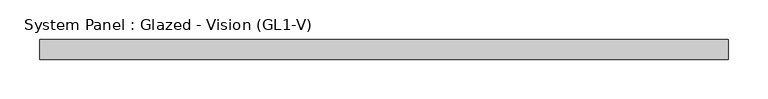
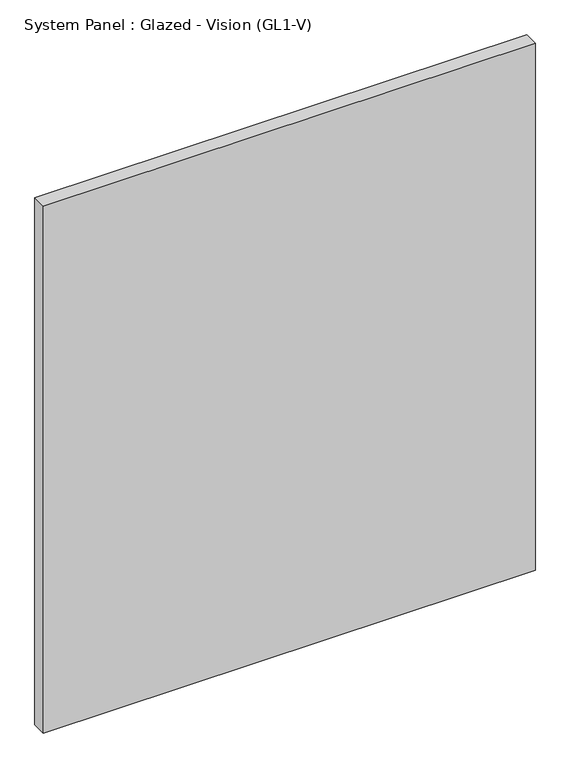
"""IFC4 building model written with IfcOpenShell, lengths in millimetres: plate geometry, System Panel : Glazed - Vision (GL1-V)."""

import ifcopenshell
import ifcopenshell.guid

model = None  # the IFC model being written
_history = None  # IfcOwnerHistory: only IFC2X3 demands one
_inside = {}  # id of a spatial element -> (the spatial element, [elements in it])
_under = {}  # id of a project, library or spatial element -> (it, [spatial elements below it])
_declared = {}  # id of a project -> (the project, [libraries it declares])
_typed = {}  # id of a type object -> (the type object, [elements of that type])
_made_of = {}  # id of a material, layer set ... -> (it, [elements and type objects made of it])


def new_model(schema):
    """Start an empty IFC model of exactly this schema.

    Asked for "IFC4X3", IfcOpenShell would pick the latest addendum, in which some entities
    have other attributes; the version numbers below select the first issue.
    IFC2X3 requires an IfcOwnerHistory on every rooted entity: one is made here for all.
    """
    global model, _history
    if schema == "IFC4X3":
        model = ifcopenshell.file(schema_version=(4, 3, 0, 0))
    else:
        model = ifcopenshell.file(schema=schema)
    _inside.clear()
    _under.clear()
    _declared.clear()
    _typed.clear()
    _made_of.clear()
    _history = None
    if model.schema == "IFC2X3":
        org = make("IfcOrganization", Name="unknown")
        user = make(
            "IfcPersonAndOrganization",
            ThePerson=make("IfcPerson", FamilyName="unknown"),
            TheOrganization=org,
        )
        app = make(
            "IfcApplication",
            ApplicationDeveloper=org,
            Version="unknown",
            ApplicationFullName="unknown",
            ApplicationIdentifier="unknown",
        )
        _history = make(
            "IfcOwnerHistory",
            OwningUser=user,
            OwningApplication=app,
            ChangeAction="ADDED",
            CreationDate=0,
        )
    return model


def make(cls, **values):
    """One entity of the class cls with the attributes given. An attribute that is None is left unset."""
    return model.create_entity(
        cls, **{name: value for name, value in values.items() if value is not None}
    )


def rooted(cls, **values):
    """An entity with a GlobalId (a new one), such as an element, a storey or a relation."""
    return make(cls, GlobalId=ifcopenshell.guid.new(), OwnerHistory=_history, **values)


def si_unit(unit_type, name, prefix=None):
    """IfcSIUnit, for example si_unit("LENGTHUNIT", "METRE", prefix="MILLI")."""
    return make("IfcSIUnit", UnitType=unit_type, Prefix=prefix, Name=name)


def assignment(units):
    """IfcUnitAssignment: the units of a project."""
    return None if units is None else make("IfcUnitAssignment", Units=units)


def point(xyz):
    """IfcCartesianPoint."""
    return None if xyz is None else make("IfcCartesianPoint", Coordinates=xyz)


def direction(xyz):
    """IfcDirection."""
    return None if xyz is None else make("IfcDirection", DirectionRatios=xyz)


def frame(location, z_axis=None, x_axis=None):
    """IfcAxis2Placement3D, a coordinate frame: its origin and axes. An axis left out is left unset."""
    return make(
        "IfcAxis2Placement3D",
        Location=point(location),
        Axis=direction(z_axis),
        RefDirection=direction(x_axis),
    )


def origin():
    """The frame at (0, 0, 0) with its axes left unset."""
    return frame((0.0, 0.0, 0.0))


def origin_with_axes():
    """The frame at (0, 0, 0) with the z axis (0, 0, 1) and the x axis (1, 0, 0) written out."""
    return frame((0.0, 0.0, 0.0), z_axis=(0.0, 0.0, 1.0), x_axis=(1.0, 0.0, 0.0))


def place(relative_to, where):
    """IfcLocalPlacement: puts the frame where relative to a parent placement (None: the world)."""
    return make(
        "IfcLocalPlacement", PlacementRelTo=relative_to, RelativePlacement=where
    )


def context(
    kind, dimensions, precision=None, world=None, true_north=None, identifier=None
):
    """IfcGeometricRepresentationContext, for example the 3D "Model" context."""
    return make(
        "IfcGeometricRepresentationContext",
        ContextIdentifier=identifier,
        ContextType=kind,
        CoordinateSpaceDimension=dimensions,
        Precision=precision,
        WorldCoordinateSystem=world,
        TrueNorth=true_north,
    )


def project(units=None, contexts=None):
    """IfcProject with its units and contexts."""
    return rooted(
        "IfcProject",
        Name="project",
        RepresentationContexts=contexts,
        UnitsInContext=assignment(units),
    )


def spatial(cls, under=None, at=None, **own):
    """A site, building, storey or space (cls), placed at a placement, below another one or the project."""
    s = rooted(cls, ObjectPlacement=at, **own)
    if under is not None:
        _under.setdefault(under.id(), (under, []))[1].append(s)
    return s


def polyline(points):
    """IfcPolyline through the points."""
    return make("IfcPolyline", Points=[point(p) for p in points])


def outline(outer, holes=None, kind="AREA"):
    """IfcArbitraryClosedProfileDef: a profile drawn as a closed curve; with holes, ...WithVoids."""
    if holes is None:
        return make("IfcArbitraryClosedProfileDef", ProfileType=kind, OuterCurve=outer)
    return make(
        "IfcArbitraryProfileDefWithVoids",
        ProfileType=kind,
        OuterCurve=outer,
        InnerCurves=holes,
    )


def extrude(swept, where, along, depth):
    """IfcExtrudedAreaSolid: the profile swept, set in the frame where, extruded along a direction by depth."""
    return make(
        "IfcExtrudedAreaSolid",
        SweptArea=swept,
        Position=where,
        ExtrudedDirection=direction(along),
        Depth=depth,
    )


def shape(context_of_items, identifier, shape_type, items):
    """IfcShapeRepresentation: the items that make up one representation, for example the "Body"."""
    return make(
        "IfcShapeRepresentation",
        ContextOfItems=context_of_items,
        RepresentationIdentifier=identifier,
        RepresentationType=shape_type,
        Items=items,
    )


def source(mapping_origin, context_of_items, identifier, shape_type, items):
    """IfcRepresentationMap: a shape defined once, which mapped items show again and again."""
    return make(
        "IfcRepresentationMap",
        MappingOrigin=mapping_origin,
        MappedRepresentation=shape(context_of_items, identifier, shape_type, items),
    )


def transform(
    local_origin,
    x_axis=None,
    y_axis=None,
    z_axis=None,
    scale=None,
    scale2=None,
    scale3=None,
    uniform=True,
):
    """IfcCartesianTransformationOperator3D, or its non-uniform kind. x_axis, y_axis, z_axis: its Axis1, 2, 3."""
    if uniform:
        return make(
            "IfcCartesianTransformationOperator3D",
            Axis1=direction(x_axis),
            Axis2=direction(y_axis),
            LocalOrigin=point(local_origin),
            Scale=scale,
            Axis3=direction(z_axis),
        )
    return make(
        "IfcCartesianTransformationOperator3DnonUniform",
        Axis1=direction(x_axis),
        Axis2=direction(y_axis),
        LocalOrigin=point(local_origin),
        Scale=scale,
        Axis3=direction(z_axis),
        Scale2=scale2,
        Scale3=scale3,
    )


def mapped(mapping_source, mapping_target):
    """IfcMappedItem: shows the shape of a source again, moved by a transform."""
    return make(
        "IfcMappedItem", MappingSource=mapping_source, MappingTarget=mapping_target
    )


def made_of(thing, what):
    """Note that an element or type object is made of a material, layer set ...; save() writes the relation."""
    if what is not None:
        _made_of.setdefault(what.id(), (what, []))[1].append(thing)
    return thing


def element(
    cls,
    number,
    at=None,
    inside=None,
    cuts=None,
    type_object=None,
    material=None,
    context=None,
    identifier="Body",
    shape_type=None,
    held_by="IfcProductDefinitionShape",
    body=None,
    shapes=None,
    **own,
):
    """One element of the class cls, such as IfcWall. Its Tag is "e" and its number.

    at: its placement. inside: the storey or other place that contains it. cuts: it is an
    opening in that element (IfcRelVoidsElement). A single representation is given by context,
    identifier, shape_type and body (its items); several are given by shapes. held_by: the class
    of the entity that holds the representations. save() writes the other relations.
    """
    e = rooted(cls, Tag="e%d" % number, ObjectPlacement=at, **own)
    if body is not None:
        shapes = [shape(context, identifier, shape_type, body)]
    if shapes is not None:
        e.Representation = make(held_by, Representations=shapes)
    if inside is not None:
        _inside.setdefault(inside.id(), (inside, []))[1].append(e)
    if cuts is not None:
        rooted(
            "IfcRelVoidsElement", RelatingBuildingElement=cuts, RelatedOpeningElement=e
        )
    if type_object is not None:
        _typed.setdefault(type_object.id(), (type_object, []))[1].append(e)
    return made_of(e, material)


def aggregate(whole, parts):
    """IfcRelAggregates: a whole, such as a stair, and the parts it consists of."""
    return rooted("IfcRelAggregates", RelatingObject=whole, RelatedObjects=parts)


def save(model, path):
    """Write the relations noted so far, then the file.

    IfcRelAggregates (storeys below a building ...), IfcRelContainedInSpatialStructure (elements
    in a storey), IfcRelDefinesByType, IfcRelAssociatesMaterial and IfcRelDeclares: one each for
    every whole, place, type object, material and project.
    """
    for whole, parts in _under.values():
        aggregate(whole, parts)
    for where, things in _inside.values():
        rooted(
            "IfcRelContainedInSpatialStructure",
            RelatedElements=things,
            RelatingStructure=where,
        )
    for kind, things in _typed.values():
        rooted("IfcRelDefinesByType", RelatedObjects=things, RelatingType=kind)
    for what, things in _made_of.values():
        rooted("IfcRelAssociatesMaterial", RelatedObjects=things, RelatingMaterial=what)
    for by, libraries in _declared.values():
        rooted("IfcRelDeclares", RelatingContext=by, RelatedDefinitions=libraries)
    model.write(path)


def system_panel_glazed_vision_gl1_v_45180fb3(model_context):
    return source(origin(), model_context, "Body", "SweptSolid", [
        extrude(outline(polyline([(434.9702038, -25.4), (-434.9702038, -25.4), (-434.9702038, 0.0), (434.9702038, 0.0), (434.9702038, -25.4)])), origin_with_axes(), (0.0, 0.0, 1.0), 984.25),
    ])


if __name__ == "__main__":
    model = new_model("IFC4")
    model_context = context("Model", 3, world=origin())
    ifc_project = project(units=[si_unit("LENGTHUNIT", "METRE", prefix="MILLI")], contexts=[model_context])
    site = spatial("IfcSite", under=ifc_project)
    building = spatial("IfcBuilding", under=site)
    placement = place(None, origin())
    system_panel_glazed_vision_gl1_v_shape = system_panel_glazed_vision_gl1_v_45180fb3(model_context)
    element("IfcPlate", 1, ObjectType="System Panel : Glazed - Vision (GL1-V)", at=placement, inside=building, context=model_context, shape_type="MappedRepresentation", body=[
        mapped(system_panel_glazed_vision_gl1_v_shape, transform((0.0, 0.0, 0.0), x_axis=(1.0, 0.0, 0.0), y_axis=(0.0, 1.0, 0.0), z_axis=(0.0, 0.0, 1.0))),
    ])
    save(model, "model.ifc")
